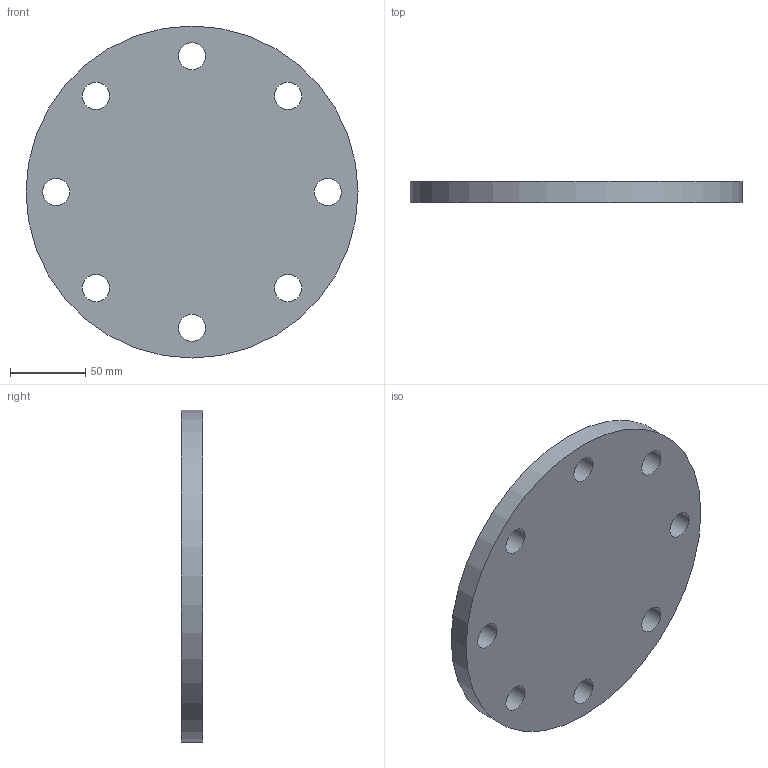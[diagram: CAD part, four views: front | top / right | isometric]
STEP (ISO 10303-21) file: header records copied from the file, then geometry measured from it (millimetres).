
FILE_DESCRIPTION(/* description */ (''),/* implementation_level */ '2;1');
FILE_NAME(/* name */ 'Z:\Geberit\Export\NewStep\367748.stp',/* time_stamp */ '2014-04-02T07:58:18+02:00',/* author */ ('nelson'),/* organization */ (''),/* preprocessor_version */ 'ST-DEVELOPER v15.2',/* originating_system */ 'Autodesk Inventor 2014',/* authorisation */ '');
FILE_SCHEMA (('AUTOMOTIVE_DESIGN { 1 0 10303 214 3 1 1 }'));
Length unit declared in the file: millimetre
Products named in the file (1): 367748
Bounding box: 220 x 14 x 220 mm (x, y, z)
Volume: 503685.3 mm3; surface area: 87964.6 mm2
Topology: 1 solids, 1 shells, 11 faces, 27 edges, 18 vertices
Faces by surface type: cylinder 9, plane 2
Full cylindrical faces by diameter (mm): 18 x8, 220 x1
Entity records: 347 total; most frequent: DIRECTION 60, CARTESIAN_POINT 48, EDGE_LOOP 36, ORIENTED_EDGE 36, AXIS2_PLACEMENT_3D 30, FACE_BOUND 27, CIRCLE 18, VERTEX_POINT 18
